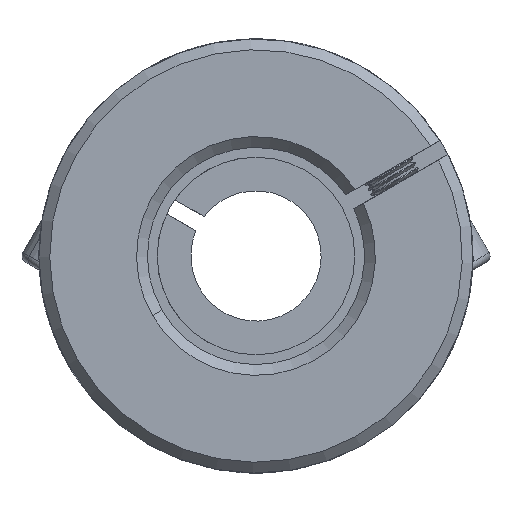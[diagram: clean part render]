
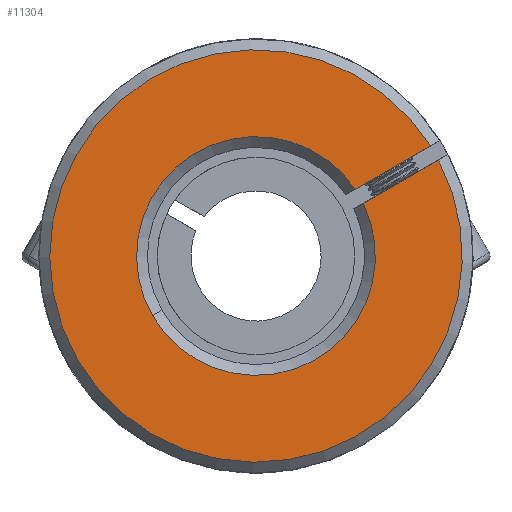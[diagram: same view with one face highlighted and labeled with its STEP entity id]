
A CAD part, front view. The second image highlights one B-rep face of the part: STEP entity #11304.
In plain terms, the highlighted planar face has unit normal (0, -1, 0).
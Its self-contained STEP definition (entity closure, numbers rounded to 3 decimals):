
#112 = DIRECTION ( 'NONE',  ( 0., 1., 0. ) ) ;
#591 = VERTEX_POINT ( 'NONE', #13177 ) ;
#1495 = AXIS2_PLACEMENT_3D ( 'NONE', #4453, #112, #6546 ) ;
#1934 = VERTEX_POINT ( 'NONE', #9810 ) ;
#2145 = PLANE ( 'NONE',  #1495 ) ;
#2758 = CIRCLE ( 'NONE', #3907, 11. ) ;
#2794 = CARTESIAN_POINT ( 'NONE',  ( -1.447, -31.239, 40. ) ) ;
#3391 = EDGE_CURVE ( 'NONE', #7637, #9567, #2758, .T. ) ;
#3470 = ORIENTED_EDGE ( 'NONE', *, *, #7132, .F. ) ;
#3907 = AXIS2_PLACEMENT_3D ( 'NONE', #9079, #11130, #12307 ) ;
#3964 = DIRECTION ( 'NONE',  ( 0., 1., 0. ) ) ;
#4150 = DIRECTION ( 'NONE',  ( -0.866, 0., -0.5 ) ) ;
#4314 = VECTOR ( 'NONE', #7869, 1000. ) ;
#4453 = CARTESIAN_POINT ( 'NONE',  ( 52.98, -31.239, 45.743 ) ) ;
#4532 = ORIENTED_EDGE ( 'NONE', *, *, #3391, .T. ) ;
#5321 = ORIENTED_EDGE ( 'NONE', *, *, #9440, .T. ) ;
#5376 = CARTESIAN_POINT ( 'NONE',  ( -1.447, -31.239, 40. ) ) ;
#5511 = LINE ( 'NONE', #12171, #4314 ) ;
#6234 = AXIS2_PLACEMENT_3D ( 'NONE', #5376, #6459, #13943 ) ;
#6379 = CARTESIAN_POINT ( 'NONE',  ( 6.812, -31.239, 45.638 ) ) ;
#6459 = DIRECTION ( 'NONE',  ( 0., -1., 0. ) ) ;
#6546 = DIRECTION ( 'NONE',  ( 0.5, 0., -0.866 ) ) ;
#6992 = AXIS2_PLACEMENT_3D ( 'NONE', #2794, #3964, #9409 ) ;
#7132 = EDGE_CURVE ( 'NONE', #591, #1934, #9571, .T. ) ;
#7247 = EDGE_CURVE ( 'NONE', #591, #10176, #7571, .T. ) ;
#7458 = ORIENTED_EDGE ( 'NONE', *, *, #7247, .T. ) ;
#7571 = CIRCLE ( 'NONE', #6234, 19. ) ;
#7637 = VERTEX_POINT ( 'NONE', #10489 ) ;
#7869 = DIRECTION ( 'NONE',  ( 0.866, 0., 0.5 ) ) ;
#9079 = CARTESIAN_POINT ( 'NONE',  ( -1.447, -31.239, 40. ) ) ;
#9406 = EDGE_LOOP ( 'NONE', ( #11091, #4532, #5321, #3470, #7458 ) ) ;
#9409 = DIRECTION ( 'NONE',  ( 0.5, 0., -0.866 ) ) ;
#9440 = EDGE_CURVE ( 'NONE', #9567, #1934, #12689, .T. ) ;
#9567 = VERTEX_POINT ( 'NONE', #11696 ) ;
#9571 = LINE ( 'NONE', #6379, #9741 ) ;
#9741 = VECTOR ( 'NONE', #4150, 1000. ) ;
#9786 = EDGE_CURVE ( 'NONE', #7637, #10176, #5511, .T. ) ;
#9810 = CARTESIAN_POINT ( 'NONE',  ( 7.68, -31.239, 46.14 ) ) ;
#10176 = VERTEX_POINT ( 'NONE', #10695 ) ;
#10489 = CARTESIAN_POINT ( 'NONE',  ( 8.431, -31.239, 44.841 ) ) ;
#10695 = CARTESIAN_POINT ( 'NONE',  ( 15.367, -31.239, 48.848 ) ) ;
#11091 = ORIENTED_EDGE ( 'NONE', *, *, #9786, .F. ) ;
#11130 = DIRECTION ( 'NONE',  ( 0., 1., 0. ) ) ;
#11164 = FACE_OUTER_BOUND ( 'NONE', #9406, .T. ) ;
#11304 = ADVANCED_FACE ( 'NONE', ( #11164 ), #2145, .F. ) ;
#11696 = CARTESIAN_POINT ( 'NONE',  ( -10.971, -31.239, 34.497 ) ) ;
#12171 = CARTESIAN_POINT ( 'NONE',  ( 7.562, -31.239, 44.339 ) ) ;
#12307 = DIRECTION ( 'NONE',  ( 0.5, 0., -0.866 ) ) ;
#12689 = CIRCLE ( 'NONE', #6992, 11. ) ;
#13177 = CARTESIAN_POINT ( 'NONE',  ( 14.616, -31.239, 50.147 ) ) ;
#13943 = DIRECTION ( 'NONE',  ( 0.5, 0., -0.866 ) ) ;
